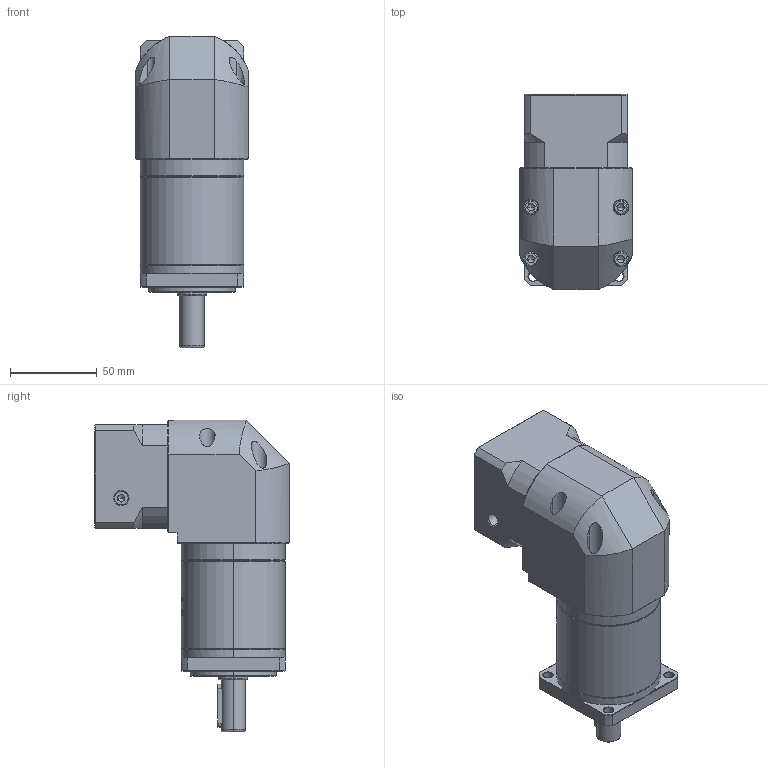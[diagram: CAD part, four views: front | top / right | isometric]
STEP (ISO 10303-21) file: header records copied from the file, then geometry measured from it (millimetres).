
FILE_DESCRIPTION (( 'STEP AP214' ), '1' );
FILE_NAME ('ZFR060-D14-L2-P2-6.35-38.1-47.14x47.14-M4.step', '2023-08-17T03:31:42', ( '' ), ( '' ), 'SwSTEP 2.0', 'SolidWorks 2016', '' );
FILE_SCHEMA (( 'AUTOMOTIVE_DESIGN' ));
Length unit declared in the file: millimetre
Products named in the file (1): ZFR060-D14-L2-P2-6.35-38.1-47.14x47.14-M4
Bounding box: 65 x 112.7 x 180 mm (x, y, z)
Volume: 591650.5 mm3; surface area: 83047.4 mm2
Topology: 5 solids, 6 shells, 1918 faces, 5111 edges, 3291 vertices
Faces by surface type: plane 848, cylinder 401, bspline 366, cone 289, torus 14
Entity records: 104472 total; most frequent: CARTESIAN_POINT 39863, ORIENTED_EDGE 10178, DIRECTION 7569, EDGE_CURVE 5089, VERTEX_POINT 3291, VECTOR 2595, LINE 2595, AXIS2_PLACEMENT_3D 2487
